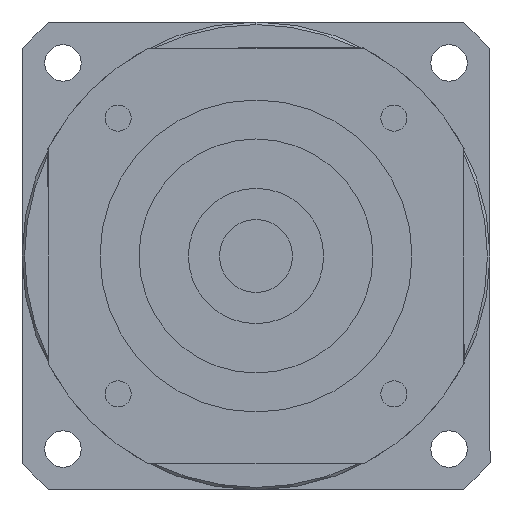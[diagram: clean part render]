
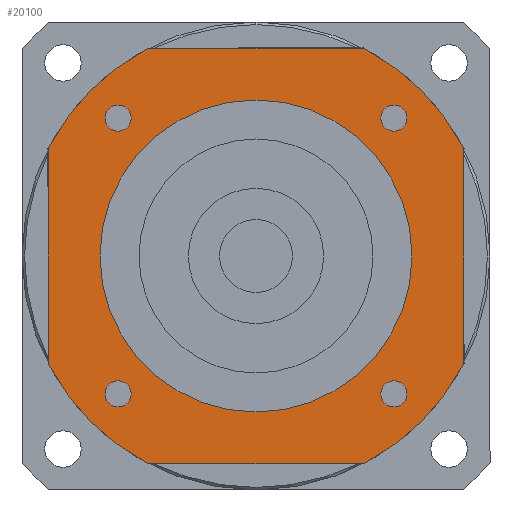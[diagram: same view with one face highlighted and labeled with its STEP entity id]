
A CAD part, left-side view. The second image highlights one B-rep face of the part: STEP entity #20100.
In plain terms, the highlighted planar face has unit normal (-1, 0, 0) as drawn and (0, 0, -1) by its records, which use the part's own axes.
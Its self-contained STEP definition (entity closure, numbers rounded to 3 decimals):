
#16320=CARTESIAN_POINT('',(-20.616,40.,-117.));
#16330=VERTEX_POINT('',#16320);
#16490=CARTESIAN_POINT('',(-40.,20.616,-117.));
#16500=VERTEX_POINT('',#16490);
#16530=CARTESIAN_POINT('',(0.,0.,
-117.));
#16540=DIRECTION('',(0.,0.,1.));
#16550=DIRECTION('',(0.,-1.,0.));
#16560=AXIS2_PLACEMENT_3D('',#16530,#16540,#16550);
#16570=CIRCLE('',#16560,45.);
#16580=EDGE_CURVE('',#16330,#16500,#16570,.T.);
#18340=CARTESIAN_POINT('',(20.616,40.,-117.));
#18350=VERTEX_POINT('',#18340);
#18480=CARTESIAN_POINT('',(40.,40.,-117.));
#18490=DIRECTION('',(-1.,0.,0.));
#18500=VECTOR('',#18490,1000.);
#18510=LINE('',#18480,#18500);
#18520=EDGE_CURVE('',#18350,#16330,#18510,.T.);
#18570=CARTESIAN_POINT('',(-40.,40.,-117.));
#18580=DIRECTION('',(0.,0.,1.));
#18590=DIRECTION('',(-1.,0.,0.));
#18600=AXIS2_PLACEMENT_3D('',#18570,#18580,#18590);
#18610=PLANE('',#18600);
#18620=CARTESIAN_POINT('',(26.517,-26.517,-117.));
#18630=DIRECTION('',(0.,0.,-1.));
#18640=DIRECTION('',(1.,0.,0.));
#18650=AXIS2_PLACEMENT_3D('',#18620,#18630,#18640);
#18660=CIRCLE('',#18650,2.5);
#18670=CARTESIAN_POINT('',(29.017,-26.517,-117.));
#18680=VERTEX_POINT('',#18670);
#18690=CARTESIAN_POINT('',(26.517,-29.017,-117.));
#18700=VERTEX_POINT('',#18690);
#18710=EDGE_CURVE('',#18680,#18700,#18660,.T.);
#18720=ORIENTED_EDGE('',*,*,#18710,.F.);
#18730=CARTESIAN_POINT('',(26.517,-24.017,-117.));
#18740=VERTEX_POINT('',#18730);
#18750=EDGE_CURVE('',#18700,#18740,#18660,.T.);
#18760=ORIENTED_EDGE('',*,*,#18750,.F.);
#18770=EDGE_CURVE('',#18740,#18680,#18660,.T.);
#18780=ORIENTED_EDGE('',*,*,#18770,.F.);
#18790=EDGE_LOOP('',(#18780,#18760,#18720));
#18800=FACE_BOUND('',#18790,.T.);
#18810=CARTESIAN_POINT('',(26.517,26.517,-117.));
#18820=DIRECTION('',(0.,0.,-1.));
#18830=DIRECTION('',(0.,1.,0.));
#18840=AXIS2_PLACEMENT_3D('',#18810,#18820,#18830);
#18850=CIRCLE('',#18840,2.5);
#18860=CARTESIAN_POINT('',(26.517,29.017,-117.));
#18870=VERTEX_POINT('',#18860);
#18880=CARTESIAN_POINT('',(29.017,26.517,-117.));
#18890=VERTEX_POINT('',#18880);
#18900=EDGE_CURVE('',#18870,#18890,#18850,.T.);
#18910=ORIENTED_EDGE('',*,*,#18900,.F.);
#18920=CARTESIAN_POINT('',(24.017,26.517,-117.));
#18930=VERTEX_POINT('',#18920);
#18940=EDGE_CURVE('',#18890,#18930,#18850,.T.);
#18950=ORIENTED_EDGE('',*,*,#18940,.F.);
#18960=EDGE_CURVE('',#18930,#18870,#18850,.T.);
#18970=ORIENTED_EDGE('',*,*,#18960,.F.);
#18980=EDGE_LOOP('',(#18970,#18950,#18910));
#18990=FACE_BOUND('',#18980,.T.);
#19000=CARTESIAN_POINT('',(-26.517,26.517,-117.));
#19010=DIRECTION('',(0.,0.,-1.));
#19020=DIRECTION('',(-1.,0.,0.));
#19030=AXIS2_PLACEMENT_3D('',#19000,#19010,#19020);
#19040=CIRCLE('',#19030,2.5);
#19050=CARTESIAN_POINT('',(-29.017,26.517,-117.));
#19060=VERTEX_POINT('',#19050);
#19070=CARTESIAN_POINT('',(-26.517,29.017,-117.));
#19080=VERTEX_POINT('',#19070);
#19090=EDGE_CURVE('',#19060,#19080,#19040,.T.);
#19100=ORIENTED_EDGE('',*,*,#19090,.F.);
#19110=CARTESIAN_POINT('',(-26.517,24.017,-117.));
#19120=VERTEX_POINT('',#19110);
#19130=EDGE_CURVE('',#19080,#19120,#19040,.T.);
#19140=ORIENTED_EDGE('',*,*,#19130,.F.);
#19150=EDGE_CURVE('',#19120,#19060,#19040,.T.);
#19160=ORIENTED_EDGE('',*,*,#19150,.F.);
#19170=EDGE_LOOP('',(#19160,#19140,#19100));
#19180=FACE_BOUND('',#19170,.T.);
#19190=CARTESIAN_POINT('',(-26.517,-26.517,-117.));
#19200=DIRECTION('',(0.,0.,-1.));
#19210=DIRECTION('',(0.,-1.,0.));
#19220=AXIS2_PLACEMENT_3D('',#19190,#19200,#19210);
#19230=CIRCLE('',#19220,2.5);
#19240=CARTESIAN_POINT('',(-26.517,-29.017,-117.));
#19250=VERTEX_POINT('',#19240);
#19260=CARTESIAN_POINT('',(-29.017,-26.517,-117.));
#19270=VERTEX_POINT('',#19260);
#19280=EDGE_CURVE('',#19250,#19270,#19230,.T.);
#19290=ORIENTED_EDGE('',*,*,#19280,.F.);
#19300=CARTESIAN_POINT('',(-24.017,-26.517,-117.));
#19310=VERTEX_POINT('',#19300);
#19320=EDGE_CURVE('',#19270,#19310,#19230,.T.);
#19330=ORIENTED_EDGE('',*,*,#19320,.F.);
#19340=EDGE_CURVE('',#19310,#19250,#19230,.T.);
#19350=ORIENTED_EDGE('',*,*,#19340,.F.);
#19360=EDGE_LOOP('',(#19350,#19330,#19290));
#19370=FACE_BOUND('',#19360,.T.);
#19380=CARTESIAN_POINT('',(0.,0.,
-117.));
#19390=DIRECTION('',(0.,0.,1.));
#19400=DIRECTION('',(0.,-1.,0.));
#19410=AXIS2_PLACEMENT_3D('',#19380,#19390,#19400);
#19420=CIRCLE('',#19410,45.);
#19430=CARTESIAN_POINT('',(-40.,-20.616,-117.));
#19440=VERTEX_POINT('',#19430);
#19450=CARTESIAN_POINT('',(-20.616,-40.,-117.));
#19460=VERTEX_POINT('',#19450);
#19470=EDGE_CURVE('',#19440,#19460,#19420,.T.);
#19480=ORIENTED_EDGE('',*,*,#19470,.F.);
#19490=CARTESIAN_POINT('',(-40.,-40.,-117.));
#19500=DIRECTION('',(1.,0.,0.));
#19510=VECTOR('',#19500,1000.);
#19520=LINE('',#19490,#19510);
#19530=CARTESIAN_POINT('',(20.616,-40.,-117.));
#19540=VERTEX_POINT('',#19530);
#19550=EDGE_CURVE('',#19460,#19540,#19520,.T.);
#19560=ORIENTED_EDGE('',*,*,#19550,.F.);
#19570=CARTESIAN_POINT('',(0.,0.,
-117.));
#19580=DIRECTION('',(0.,0.,1.));
#19590=DIRECTION('',(0.,-1.,0.));
#19600=AXIS2_PLACEMENT_3D('',#19570,#19580,#19590);
#19610=CIRCLE('',#19600,45.);
#19620=CARTESIAN_POINT('',(40.,-20.616,-117.));
#19630=VERTEX_POINT('',#19620);
#19640=EDGE_CURVE('',#19540,#19630,#19610,.T.);
#19650=ORIENTED_EDGE('',*,*,#19640,.F.);
#19660=CARTESIAN_POINT('',(40.,-40.,-117.));
#19670=DIRECTION('',(0.,1.,0.));
#19680=VECTOR('',#19670,1000.);
#19690=LINE('',#19660,#19680);
#19700=CARTESIAN_POINT('',(40.,20.616,-117.));
#19710=VERTEX_POINT('',#19700);
#19720=EDGE_CURVE('',#19630,#19710,#19690,.T.);
#19730=ORIENTED_EDGE('',*,*,#19720,.F.);
#19740=CARTESIAN_POINT('',(0.,0.,
-117.));
#19750=DIRECTION('',(0.,0.,1.));
#19760=DIRECTION('',(0.,-1.,0.));
#19770=AXIS2_PLACEMENT_3D('',#19740,#19750,#19760);
#19780=CIRCLE('',#19770,45.);
#19790=EDGE_CURVE('',#19710,#18350,#19780,.T.);
#19800=ORIENTED_EDGE('',*,*,#19790,.F.);
#19810=ORIENTED_EDGE('',*,*,#18520,.F.);
#19820=ORIENTED_EDGE('',*,*,#16580,.F.);
#19830=CARTESIAN_POINT('',(-40.,40.,-117.));
#19840=DIRECTION('',(0.,-1.,0.));
#19850=VECTOR('',#19840,1000.);
#19860=LINE('',#19830,#19850);
#19870=EDGE_CURVE('',#16500,#19440,#19860,.T.);
#19880=ORIENTED_EDGE('',*,*,#19870,.F.);
#19890=EDGE_LOOP('',(#19880,#19820,#19810,#19800,#19730,#19650,#19560,
#19480));
#19900=FACE_OUTER_BOUND('',#19890,.T.);
#19910=CARTESIAN_POINT('',(0.,0.,
-117.));
#19920=DIRECTION('',(0.,0.,1.));
#19930=DIRECTION('',(0.,-1.,0.));
#19940=AXIS2_PLACEMENT_3D('',#19910,#19920,#19930);
#19950=CIRCLE('',#19940,30.);
#19960=CARTESIAN_POINT('',(30.,0.,-117.));
#19970=VERTEX_POINT('',#19960);
#19980=CARTESIAN_POINT('',(-30.,0.,-117.));
#19990=VERTEX_POINT('',#19980);
#20000=EDGE_CURVE('',#19970,#19990,#19950,.T.);
#20010=ORIENTED_EDGE('',*,*,#20000,.T.);
#20020=CARTESIAN_POINT('',(0.,-30.,-117.));
#20030=VERTEX_POINT('',#20020);
#20040=EDGE_CURVE('',#20030,#19970,#19950,.T.);
#20050=ORIENTED_EDGE('',*,*,#20040,.T.);
#20060=EDGE_CURVE('',#19990,#20030,#19950,.T.);
#20070=ORIENTED_EDGE('',*,*,#20060,.T.);
#20080=EDGE_LOOP('',(#20070,#20050,#20010));
#20090=FACE_BOUND('',#20080,.T.);
#20100=ADVANCED_FACE('',(#18800,#18990,#19180,#19370,#19900,#20090),
#18610,.F.);
